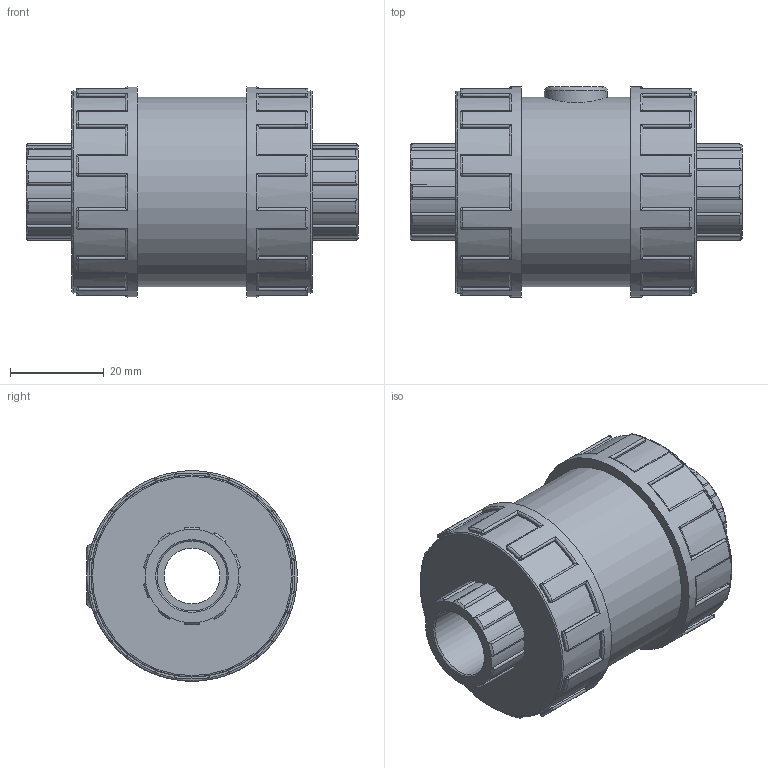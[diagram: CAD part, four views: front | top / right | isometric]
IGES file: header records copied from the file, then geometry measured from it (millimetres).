
Global section: file name: 11081003.ipt; native system: Autodesk Inventor 2015; preprocessor: unknown; author: KIM; date: 20171207.170043; units: millimetre
Bounding box: 71 x 45 x 45 mm (x, y, z)
Volume: 69920.5 mm3; surface area: 15064.9 mm2
Topology: 1 solids, 1 shells, 411 faces, 1033 edges, 630 vertices
Faces by surface type: cylinder 182, plane 105, revolution 56, sphere 48, cone 20
Full cylindrical faces by diameter (mm): 13.5 x1, 40.5 x1, 43.2 x2, 45 x2
